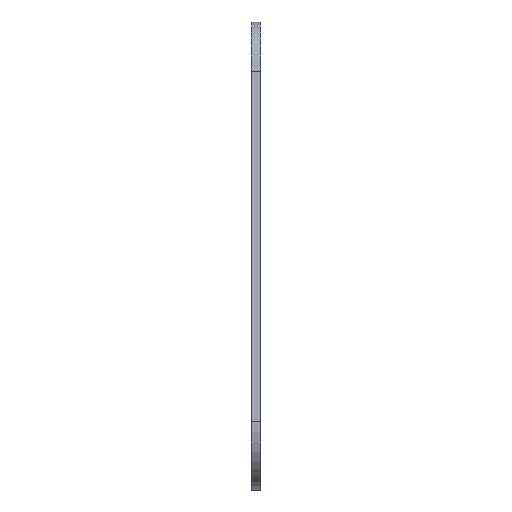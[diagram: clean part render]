
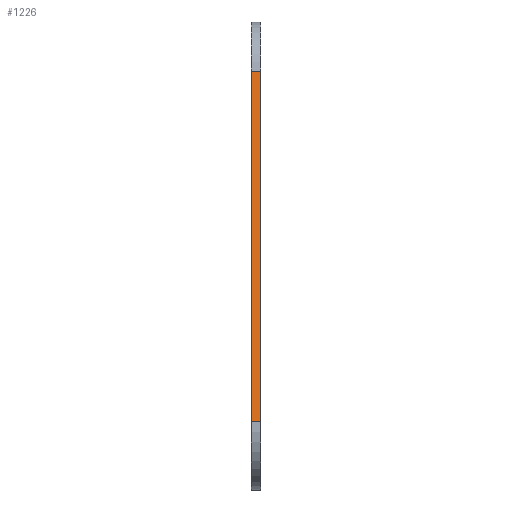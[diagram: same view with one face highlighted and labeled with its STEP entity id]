
A CAD part, left-side view. The second image highlights one B-rep face of the part: STEP entity #1226.
In plain terms, the highlighted planar face has unit normal (-0.987, 0, 0.162).
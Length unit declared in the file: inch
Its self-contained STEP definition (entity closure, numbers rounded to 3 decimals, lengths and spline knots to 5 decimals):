
#125 = ORIENTED_EDGE ( 'NONE', *, *, #1330, .T. ) ;
#182 = CARTESIAN_POINT ( 'NONE',  ( -0.53279, 0., 2.9648 ) ) ;
#487 = VECTOR ( 'NONE', #1504, 39.37008 ) ;
#791 = CARTESIAN_POINT ( 'NONE',  ( -0.53279, 0.0375, 2.9648 ) ) ;
#813 = EDGE_CURVE ( 'NONE', #2079, #2112, #1049, .T. ) ;
#964 = PLANE ( 'NONE',  #1955 ) ;
#972 = DIRECTION ( 'NONE',  ( 0.162, 0., 0.987 ) ) ;
#987 = ORIENTED_EDGE ( 'NONE', *, *, #2378, .F. ) ;
#999 = ORIENTED_EDGE ( 'NONE', *, *, #1554, .F. ) ;
#1013 = CARTESIAN_POINT ( 'NONE',  ( -0.53279, -0.0625, 2.9648 ) ) ;
#1049 = LINE ( 'NONE', #182, #487 ) ;
#1117 = CARTESIAN_POINT ( 'NONE',  ( -0.53279, 0., 2.9648 ) ) ;
#1131 = VECTOR ( 'NONE', #2120, 39.37008 ) ;
#1177 = CARTESIAN_POINT ( 'NONE',  ( -0.9237, 0.0375, 0.5836 ) ) ;
#1193 = CARTESIAN_POINT ( 'NONE',  ( -0.9237, -0.0625, 0.5836 ) ) ;
#1226 = ADVANCED_FACE ( 'NONE', ( #1230 ), #964, .T. ) ;
#1230 = FACE_OUTER_BOUND ( 'NONE', #1815, .T. ) ;
#1326 = VECTOR ( 'NONE', #2314, 39.37008 ) ;
#1330 = EDGE_CURVE ( 'NONE', #1764, #1388, #1623, .T. ) ;
#1388 = VERTEX_POINT ( 'NONE', #1013 ) ;
#1465 = LINE ( 'NONE', #1848, #2429 ) ;
#1504 = DIRECTION ( 'NONE',  ( -0.162, 0., -0.987 ) ) ;
#1554 = EDGE_CURVE ( 'NONE', #1764, #2112, #2342, .T. ) ;
#1623 = LINE ( 'NONE', #1935, #1131 ) ;
#1645 = DIRECTION ( 'NONE',  ( 0., -1., 0. ) ) ;
#1715 = CARTESIAN_POINT ( 'NONE',  ( -0.9237, 0., 0.5836 ) ) ;
#1764 = VERTEX_POINT ( 'NONE', #1193 ) ;
#1815 = EDGE_LOOP ( 'NONE', ( #125, #987, #1988, #999 ) ) ;
#1848 = CARTESIAN_POINT ( 'NONE',  ( -0.53279, 0.0375, 2.9648 ) ) ;
#1935 = CARTESIAN_POINT ( 'NONE',  ( -0.53279, -0.0625, 2.9648 ) ) ;
#1955 = AXIS2_PLACEMENT_3D ( 'NONE', #791, #2086, #972 ) ;
#1988 = ORIENTED_EDGE ( 'NONE', *, *, #813, .T. ) ;
#2079 = VERTEX_POINT ( 'NONE', #1117 ) ;
#2086 = DIRECTION ( 'NONE',  ( -0.987, 0., 0.162 ) ) ;
#2112 = VERTEX_POINT ( 'NONE', #1715 ) ;
#2120 = DIRECTION ( 'NONE',  ( 0.162, 0., 0.987 ) ) ;
#2314 = DIRECTION ( 'NONE',  ( 0., 1., 0. ) ) ;
#2342 = LINE ( 'NONE', #1177, #1326 ) ;
#2378 = EDGE_CURVE ( 'NONE', #2079, #1388, #1465, .T. ) ;
#2429 = VECTOR ( 'NONE', #1645, 39.37008 ) ;
